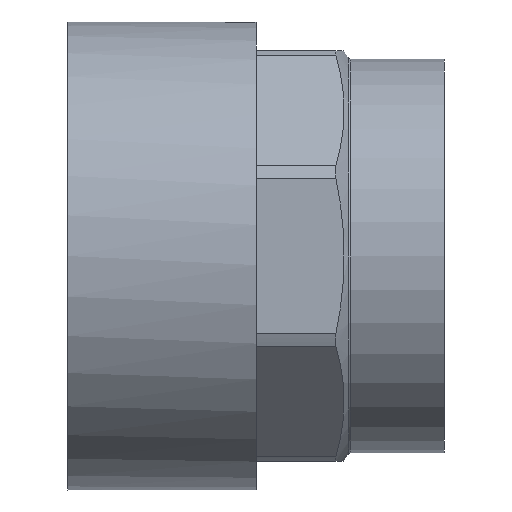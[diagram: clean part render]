
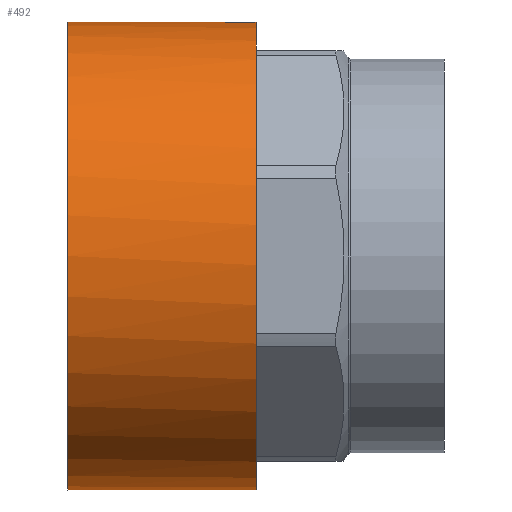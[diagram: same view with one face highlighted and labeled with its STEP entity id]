
A CAD part, front view. The second image highlights one B-rep face of the part: STEP entity #492.
In plain terms, the highlighted cylindrical face has radius 41 mm (diameter 82 mm), a full revolution.
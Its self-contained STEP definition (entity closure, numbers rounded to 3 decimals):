
#28=FACE_BOUND('',#151,.T.);
#55=CIRCLE('',#538,41.);
#63=CIRCLE('',#554,41.);
#78=CYLINDRICAL_SURFACE('',#553,41.);
#107=FACE_OUTER_BOUND('',#150,.T.);
#150=EDGE_LOOP('',(#424));
#151=EDGE_LOOP('',(#425));
#253=VERTEX_POINT('',#838);
#261=VERTEX_POINT('',#862);
#315=EDGE_CURVE('',#253,#253,#55,.T.);
#323=EDGE_CURVE('',#261,#261,#63,.T.);
#424=ORIENTED_EDGE('',*,*,#323,.F.);
#425=ORIENTED_EDGE('',*,*,#315,.T.);
#492=ADVANCED_FACE('',(#107,#28),#78,.T.);
#538=AXIS2_PLACEMENT_3D('',#839,#665,#666);
#553=AXIS2_PLACEMENT_3D('',#861,#695,#696);
#554=AXIS2_PLACEMENT_3D('',#863,#697,#698);
#665=DIRECTION('center_axis',(1.,0.,0.));
#666=DIRECTION('ref_axis',(0.,1.,0.));
#695=DIRECTION('center_axis',(1.,0.,0.));
#696=DIRECTION('ref_axis',(0.,1.,0.));
#697=DIRECTION('center_axis',(1.,0.,0.));
#698=DIRECTION('ref_axis',(0.,1.,0.));
#838=CARTESIAN_POINT('',(0.,41.,0.));
#839=CARTESIAN_POINT('Origin',(0.,0.,
0.));
#861=CARTESIAN_POINT('Origin',(16.5,0.,0.));
#862=CARTESIAN_POINT('',(33.,11.581,39.33));
#863=CARTESIAN_POINT('Origin',(33.,0.,0.));
